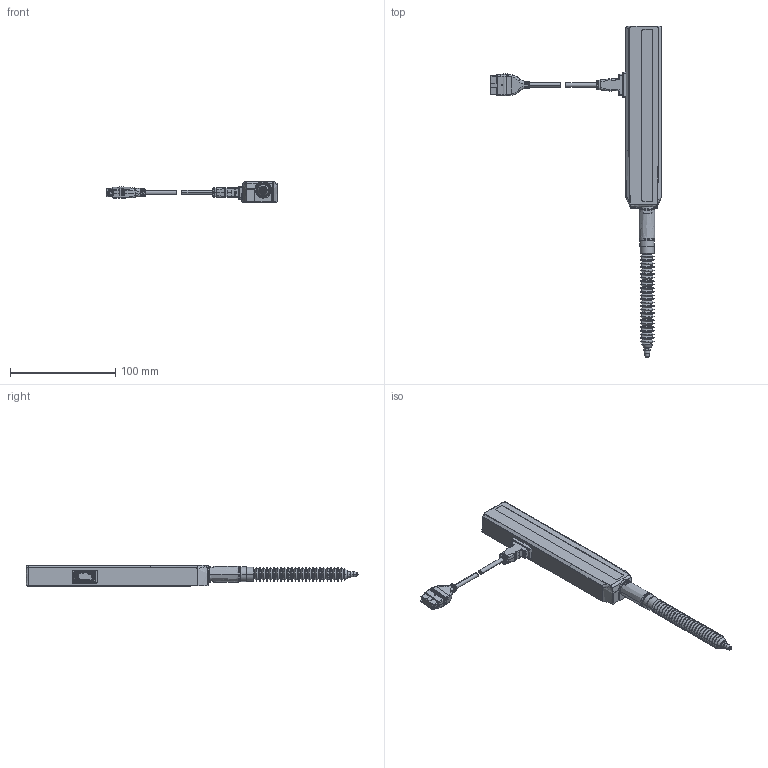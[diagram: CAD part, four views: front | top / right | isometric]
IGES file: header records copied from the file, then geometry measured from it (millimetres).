
Start section: Elysium IGES Interface
Global section: file name: 74HU:\cad_data\30_3D_CAD\LG\01_奜娤3D僨乕僞_20170921峏怴\IGES\LGD-1050L-B.igs; native system: Creo Elements/Direct Modeling 18.1B  29-Sep-2012; preprocessor: Creo Element/Direct IGES_3D V2.2; author: Unknown; organization: Unknown; date: 20170925.084943; units: millimetre
Bounding box: 162.91 x 316 x 20.58 mm (x, y, z)
Volume: 138476 mm3; surface area: 31379.8 mm2
Topology: 2 solids, 2 shells, 1164 faces, 2915 edges, 1737 vertices
Faces by surface type: bspline 1164
